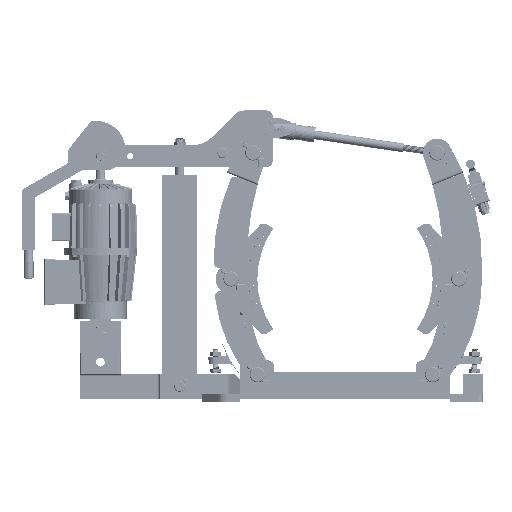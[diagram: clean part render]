
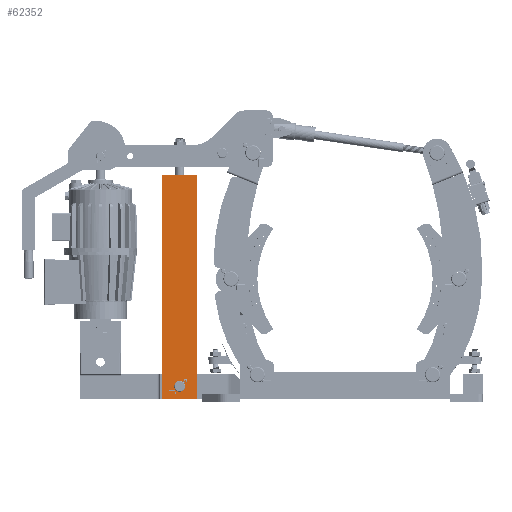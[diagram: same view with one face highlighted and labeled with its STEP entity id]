
A CAD part, left-side view. The second image highlights one B-rep face of the part: STEP entity #62352.
In plain terms, the highlighted planar face has unit normal (-1, 0, 0) as drawn and (0, 0, -1) by its records, which use the part's own axes.
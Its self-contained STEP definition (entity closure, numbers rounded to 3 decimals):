
#62203=DIRECTION('',(-1.,0.,0.));
#62204=VECTOR('',#62203,80.);
#62205=CARTESIAN_POINT('',(2959.715,80.939,-18.5));
#62206=LINE('',#62205,#62204);
#62210=DIRECTION('',(0.,-1.,0.));
#62211=VECTOR('',#62210,512.5);
#62212=CARTESIAN_POINT('',(2879.715,80.939,-18.5));
#62213=LINE('',#62212,#62211);
#62217=DIRECTION('',(1.,0.,0.));
#62218=VECTOR('',#62217,80.);
#62219=CARTESIAN_POINT('',(2879.715,-431.561,-18.5));
#62220=LINE('',#62219,#62218);
#62224=DIRECTION('',(0.,1.,0.));
#62225=VECTOR('',#62224,512.5);
#62226=CARTESIAN_POINT('',(2959.715,-431.561,-18.5));
#62227=LINE('',#62226,#62225);
#62231=CARTESIAN_POINT('',(2907.169,-401.561,-18.5));
#62232=CARTESIAN_POINT('',(2907.169,-401.091,-18.5));
#62233=CARTESIAN_POINT('',(2907.221,-400.158,-18.5));
#62234=CARTESIAN_POINT('',(2907.457,-398.772,-18.5));
#62235=CARTESIAN_POINT('',(2907.846,-397.423,-18.5));
#62236=CARTESIAN_POINT('',(2908.382,-396.128,-18.5));
#62237=CARTESIAN_POINT('',(2909.061,-394.898,-18.5));
#62238=CARTESIAN_POINT('',(2909.874,-393.753,-18.5));
#62239=CARTESIAN_POINT('',(2910.809,-392.706,-18.5));
#62240=CARTESIAN_POINT('',(2911.857,-391.769,-18.5));
#62241=CARTESIAN_POINT('',(2913.003,-390.956,-18.5));
#62242=CARTESIAN_POINT('',(2914.234,-390.275,-18.5));
#62243=CARTESIAN_POINT('',(2915.53,-389.738,-18.5));
#62244=CARTESIAN_POINT('',(2916.88,-389.349,-18.5));
#62245=CARTESIAN_POINT('',(2918.266,-389.113,-18.5));
#62246=CARTESIAN_POINT('',(2919.199,-389.061,-18.5));
#62247=CARTESIAN_POINT('',(2919.669,-389.061,-18.5));
#62252=CARTESIAN_POINT('',(2919.669,-389.061,-18.5));
#62253=CARTESIAN_POINT('',(2920.139,-389.061,-18.5));
#62254=CARTESIAN_POINT('',(2921.072,-389.114,-18.5));
#62255=CARTESIAN_POINT('',(2922.458,-389.349,-18.5));
#62256=CARTESIAN_POINT('',(2923.807,-389.738,-18.5));
#62257=CARTESIAN_POINT('',(2925.102,-390.274,-18.5));
#62258=CARTESIAN_POINT('',(2926.331,-390.954,-18.5));
#62259=CARTESIAN_POINT('',(2927.477,-391.766,-18.5));
#62260=CARTESIAN_POINT('',(2928.524,-392.701,-18.5));
#62261=CARTESIAN_POINT('',(2929.461,-393.749,-18.5));
#62262=CARTESIAN_POINT('',(2930.274,-394.895,-18.5));
#62263=CARTESIAN_POINT('',(2930.955,-396.126,-18.5));
#62264=CARTESIAN_POINT('',(2931.492,-397.422,-18.5));
#62265=CARTESIAN_POINT('',(2931.881,-398.772,-18.5));
#62266=CARTESIAN_POINT('',(2932.116,-400.158,-18.5));
#62267=CARTESIAN_POINT('',(2932.169,-401.091,-18.5));
#62268=CARTESIAN_POINT('',(2932.169,-401.561,-18.5));
#62273=CARTESIAN_POINT('',(2932.169,-401.561,-18.5));
#62274=CARTESIAN_POINT('',(2932.169,-402.031,-18.5));
#62275=CARTESIAN_POINT('',(2932.116,-402.964,-18.5));
#62276=CARTESIAN_POINT('',(2931.881,-404.35,-18.5));
#62277=CARTESIAN_POINT('',(2931.492,-405.699,-18.5));
#62278=CARTESIAN_POINT('',(2930.955,-406.994,-18.5));
#62279=CARTESIAN_POINT('',(2930.276,-408.223,-18.5));
#62280=CARTESIAN_POINT('',(2929.464,-409.369,-18.5));
#62281=CARTESIAN_POINT('',(2928.528,-410.416,-18.5));
#62282=CARTESIAN_POINT('',(2927.481,-411.353,-18.5));
#62283=CARTESIAN_POINT('',(2926.335,-412.166,-18.5));
#62284=CARTESIAN_POINT('',(2925.104,-412.847,-18.5));
#62285=CARTESIAN_POINT('',(2923.807,-413.384,-18.5));
#62286=CARTESIAN_POINT('',(2922.458,-413.773,-18.5));
#62287=CARTESIAN_POINT('',(2921.072,-414.008,-18.5));
#62288=CARTESIAN_POINT('',(2920.139,-414.061,-18.5));
#62289=CARTESIAN_POINT('',(2919.669,-414.061,-18.5));
#62294=CARTESIAN_POINT('',(2919.669,-414.061,-18.5));
#62295=CARTESIAN_POINT('',(2919.199,-414.061,-18.5));
#62296=CARTESIAN_POINT('',(2918.266,-414.008,-18.5));
#62297=CARTESIAN_POINT('',(2916.88,-413.773,-18.5));
#62298=CARTESIAN_POINT('',(2915.531,-413.384,-18.5));
#62299=CARTESIAN_POINT('',(2914.236,-412.847,-18.5));
#62300=CARTESIAN_POINT('',(2913.006,-412.168,-18.5));
#62301=CARTESIAN_POINT('',(2911.861,-411.356,-18.5));
#62302=CARTESIAN_POINT('',(2910.814,-410.421,-18.5));
#62303=CARTESIAN_POINT('',(2909.877,-409.373,-18.5));
#62304=CARTESIAN_POINT('',(2909.063,-408.227,-18.5));
#62305=CARTESIAN_POINT('',(2908.383,-406.996,-18.5));
#62306=CARTESIAN_POINT('',(2907.846,-405.699,-18.5));
#62307=CARTESIAN_POINT('',(2907.457,-404.35,-18.5));
#62308=CARTESIAN_POINT('',(2907.221,-402.964,-18.5));
#62309=CARTESIAN_POINT('',(2907.169,-402.031,-18.5));
#62310=CARTESIAN_POINT('',(2907.169,-401.561,-18.5));
#62315=CARTESIAN_POINT('',(2879.715,80.939,-18.5));
#62316=CARTESIAN_POINT('',(2959.715,80.939,-18.5));
#62317=VERTEX_POINT('',#62315);
#62318=VERTEX_POINT('',#62316);
#62319=CARTESIAN_POINT('',(2959.715,-431.561,-18.5));
#62320=VERTEX_POINT('',#62319);
#62321=CARTESIAN_POINT('',(2879.715,-431.561,-18.5));
#62322=VERTEX_POINT('',#62321);
#62323=VERTEX_POINT('',#62247);
#62324=VERTEX_POINT('',#62231);
#62325=VERTEX_POINT('',#62294);
#62326=VERTEX_POINT('',#62273);
#62327=CARTESIAN_POINT('',(2919.715,-175.311,-18.5));
#62328=DIRECTION('',(0.,0.,1.));
#62329=DIRECTION('',(0.,-1.,0.));
#62330=AXIS2_PLACEMENT_3D('',#62327,#62328,#62329);
#62331=PLANE('',#62330);
#62333=ORIENTED_EDGE('',*,*,#62332,.T.);
#62335=ORIENTED_EDGE('',*,*,#62334,.T.);
#62337=ORIENTED_EDGE('',*,*,#62336,.T.);
#62339=ORIENTED_EDGE('',*,*,#62338,.T.);
#62340=EDGE_LOOP('',(#62333,#62335,#62337,#62339));
#62341=FACE_OUTER_BOUND('',#62340,.F.);
#62343=ORIENTED_EDGE('',*,*,#62342,.T.);
#62345=ORIENTED_EDGE('',*,*,#62344,.T.);
#62347=ORIENTED_EDGE('',*,*,#62346,.T.);
#62349=ORIENTED_EDGE('',*,*,#62348,.T.);
#62350=EDGE_LOOP('',(#62343,#62345,#62347,#62349));
#62351=FACE_BOUND('',#62350,.F.);
#62352=ADVANCED_FACE('',(#62341,#62351),#62331,.F.);
#62248=B_SPLINE_CURVE_WITH_KNOTS('',3,(#62231,#62232,#62233,#62234,#62235,
#62236,#62237,#62238,#62239,#62240,#62241,#62242,#62243,#62244,#62245,#62246,
#62247),.UNSPECIFIED.,.F.,.F.,(4,1,1,1,1,1,1,1,1,1,1,1,1,1,4),(0.,
0.071,0.143,0.214,0.286,
0.357,0.429,0.5,0.571,0.643,
0.714,0.786,0.857,0.929,1.),
.UNSPECIFIED.);
#62269=B_SPLINE_CURVE_WITH_KNOTS('',3,(#62252,#62253,#62254,#62255,#62256,
#62257,#62258,#62259,#62260,#62261,#62262,#62263,#62264,#62265,#62266,#62267,
#62268),.UNSPECIFIED.,.F.,.F.,(4,1,1,1,1,1,1,1,1,1,1,1,1,1,4),(0.,
0.071,0.143,0.214,0.286,
0.357,0.429,0.5,0.571,0.643,
0.714,0.786,0.857,0.929,1.),
.UNSPECIFIED.);
#62290=B_SPLINE_CURVE_WITH_KNOTS('',3,(#62273,#62274,#62275,#62276,#62277,
#62278,#62279,#62280,#62281,#62282,#62283,#62284,#62285,#62286,#62287,#62288,
#62289),.UNSPECIFIED.,.F.,.F.,(4,1,1,1,1,1,1,1,1,1,1,1,1,1,4),(0.,
0.071,0.143,0.214,0.286,
0.357,0.429,0.5,0.571,0.643,
0.714,0.786,0.857,0.929,1.),
.UNSPECIFIED.);
#62311=B_SPLINE_CURVE_WITH_KNOTS('',3,(#62294,#62295,#62296,#62297,#62298,
#62299,#62300,#62301,#62302,#62303,#62304,#62305,#62306,#62307,#62308,#62309,
#62310),.UNSPECIFIED.,.F.,.F.,(4,1,1,1,1,1,1,1,1,1,1,1,1,1,4),(0.,
0.071,0.143,0.214,0.286,
0.357,0.429,0.5,0.571,0.643,
0.714,0.786,0.857,0.929,1.),
.UNSPECIFIED.);
#62332=EDGE_CURVE('',#62318,#62317,#62206,.T.);
#62334=EDGE_CURVE('',#62317,#62322,#62213,.T.);
#62336=EDGE_CURVE('',#62322,#62320,#62220,.T.);
#62338=EDGE_CURVE('',#62320,#62318,#62227,.T.);
#62342=EDGE_CURVE('',#62324,#62323,#62248,.T.);
#62344=EDGE_CURVE('',#62323,#62326,#62269,.T.);
#62346=EDGE_CURVE('',#62326,#62325,#62290,.T.);
#62348=EDGE_CURVE('',#62325,#62324,#62311,.T.);
